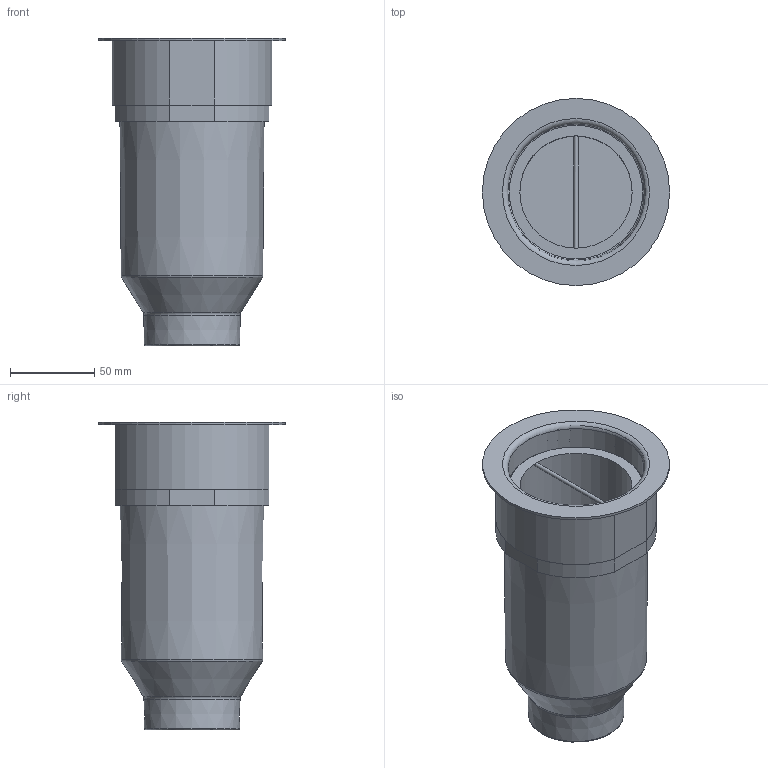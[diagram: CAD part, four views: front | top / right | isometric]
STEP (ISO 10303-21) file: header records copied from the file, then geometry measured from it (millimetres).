
FILE_DESCRIPTION(/* description */ (''),/* implementation_level */ '2;1');
FILE_NAME(/* name */ 'Scrap Drain 1.5 Coupler 2024-01-18 - 89mm Flange.step',/* time_stamp */ '2026-05-12T08:38:11+01:00',/* author */ (''),/* organization */ (''),/* preprocessor_version */ 'ST-DEVELOPER v20.1',/* originating_system */ 'Autodesk Translation Framework v15.8.0.0',/* authorisation */ '');
FILE_SCHEMA (('AUTOMOTIVE_DESIGN { 1 0 10303 214 3 1 1 }'));
Products named in the file (1): mcat13B87F5063lp
Bounding box: 111.12 x 111.12 x 182.69 mm (x, y, z)
Volume: 280545.1 mm3; surface area: 220846.2 mm2
Topology: 5 solids, 5 shells, 170 faces, 451 edges, 300 vertices
Faces by surface type: cylinder 118, plane 31, torus 11, cone 6, bspline 4
Full cylindrical faces by diameter (mm): 2.381 x1, 4.762 x37, 40.64 x1, 66.675 x1, 68.58 x1, 69.85 x1, 76.2 x1, 79.375 x1, 80.962 x1, 82.55 x23, 84.137 x1, 85.725 x11, 86.741 x23, 111.125 x1
Entity records: 36345 total; most frequent: CARTESIAN_POINT 32010, ORIENTED_EDGE 902, DIRECTION 803, EDGE_CURVE 451, AXIS2_PLACEMENT_3D 323, VERTEX_POINT 300, EDGE_LOOP 261, FACE_OUTER_BOUND 170
